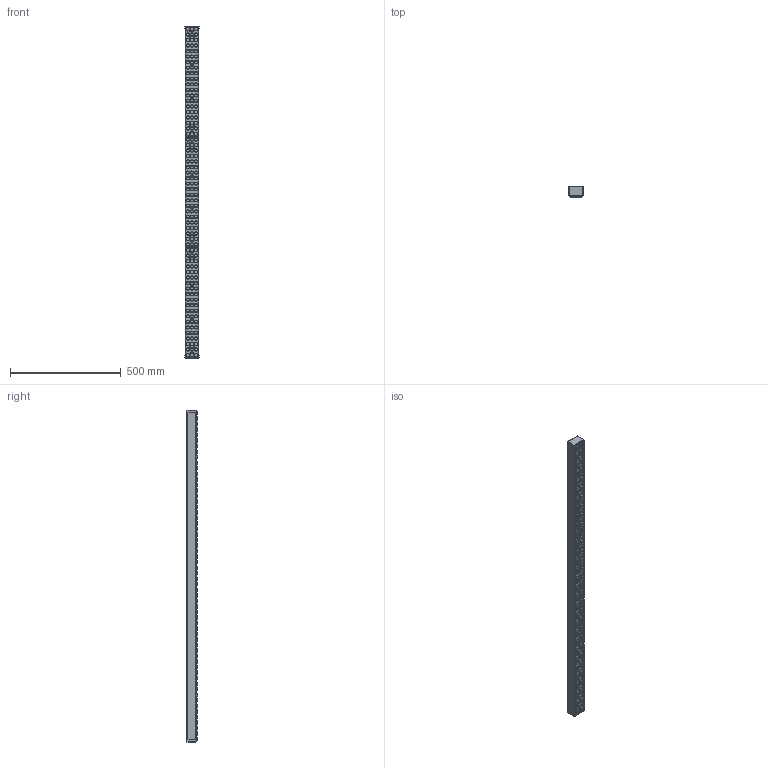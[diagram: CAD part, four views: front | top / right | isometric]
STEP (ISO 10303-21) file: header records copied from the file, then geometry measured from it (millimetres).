
FILE_DESCRIPTION(/* description */ (''),/* implementation_level */ '2;1');
FILE_NAME(/* name */ 'BINGO_LUMI_SYSTEM_GDO_BL5.stp',/* time_stamp */ '2025-10-01T13:48:05+02:00',/* author */ ('gian.noche'),/* organization */ (''),/* preprocessor_version */ 'ST-DEVELOPER v19.2',/* originating_system */ 'Autodesk Inventor 2023',/* authorisation */ '');
FILE_SCHEMA (('AUTOMOTIVE_DESIGN { 1 0 10303 214 3 1 1 }'));
Length unit declared in the file: millimetre
Products named in the file (1): IDP_27_BINGO_LUMI_SYSTEM_1500_Semplifica_1
Bounding box: 65 x 47.82 x 1501 mm (x, y, z)
Volume: 623527.3 mm3; surface area: 525632.6 mm2
Topology: 1 solids, 1 shells, 967 faces, 2142 edges, 1366 vertices
Faces by surface type: plane 373, cylinder 318, torus 192, bspline 84
Full cylindrical faces by diameter (mm): 15 x180
Entity records: 33039 total; most frequent: CARTESIAN_POINT 10592, DIRECTION 5298, ORIENTED_EDGE 4288, AXIS2_PLACEMENT_3D 2300, EDGE_CURVE 2144, VERTEX_POINT 1366, EDGE_LOOP 1156, CIRCLE 1138
